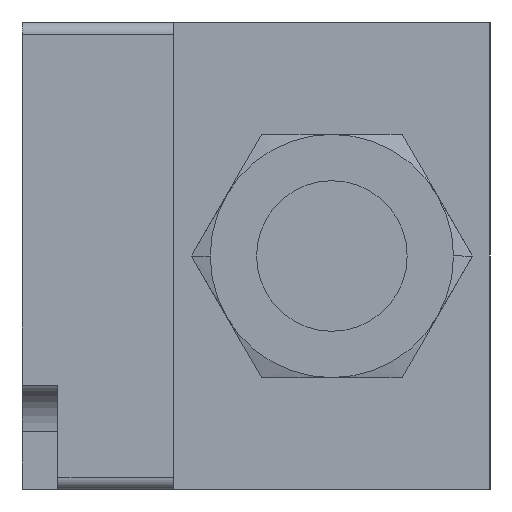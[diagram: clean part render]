
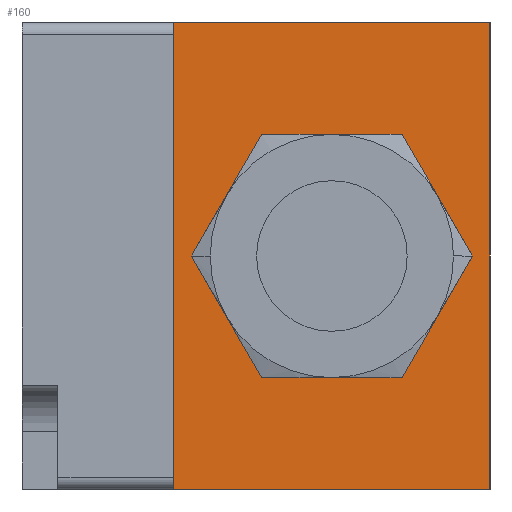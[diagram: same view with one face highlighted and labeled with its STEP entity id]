
A CAD part, left-side view. The second image highlights one B-rep face of the part: STEP entity #160.
In plain terms, the highlighted planar face has unit normal (-1, 0, 0).
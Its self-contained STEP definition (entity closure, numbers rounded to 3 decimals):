
#160 = ADVANCED_FACE( '', ( #345, #346 ), #347, .T. );
#345 = FACE_BOUND( '', #538, .T. );
#346 = FACE_OUTER_BOUND( '', #539, .T. );
#347 = PLANE( '', #540 );
#538 = EDGE_LOOP( '', ( #1230, #1231 ) );
#539 = EDGE_LOOP( '', ( #1232, #1233, #1234, #1235 ) );
#540 = AXIS2_PLACEMENT_3D( '', #1236, #1237, #1238 );
#1230 = ORIENTED_EDGE( '', *, *, #1333, .T. );
#1231 = ORIENTED_EDGE( '', *, *, #1295, .T. );
#1232 = ORIENTED_EDGE( '', *, *, #1487, .T. );
#1233 = ORIENTED_EDGE( '', *, *, #1449, .F. );
#1234 = ORIENTED_EDGE( '', *, *, #1456, .F. );
#1235 = ORIENTED_EDGE( '', *, *, #1446, .T. );
#1236 = CARTESIAN_POINT( '', ( 7., 13.65, -20.15 ) );
#1237 = DIRECTION( '', ( -1., 0., 0. ) );
#1238 = DIRECTION( '', ( 0., 0., -1. ) );
#1295 = EDGE_CURVE( '', #1555, #1552, #1556, .T. );
#1333 = EDGE_CURVE( '', #1552, #1555, #1615, .T. );
#1446 = EDGE_CURVE( '', #1800, #1798, #1801, .T. );
#1449 = EDGE_CURVE( '', #1803, #1805, #1806, .T. );
#1456 = EDGE_CURVE( '', #1800, #1803, #1814, .T. );
#1487 = EDGE_CURVE( '', #1798, #1805, #1861, .T. );
#1552 = VERTEX_POINT( '', #1942 );
#1555 = VERTEX_POINT( '', #1946 );
#1556 = CIRCLE( '', #1947, 10. );
#1615 = CIRCLE( '', #2129, 10. );
#1798 = VERTEX_POINT( '', #2388 );
#1800 = VERTEX_POINT( '', #2391 );
#1801 = LINE( '', #2392, #2393 );
#1803 = VERTEX_POINT( '', #2396 );
#1805 = VERTEX_POINT( '', #2399 );
#1806 = LINE( '', #2400, #2401 );
#1814 = LINE( '', #2412, #2413 );
#1861 = LINE( '', #2477, #2478 );
#1942 = CARTESIAN_POINT( '', ( 7., 10., 0. ) );
#1946 = CARTESIAN_POINT( '', ( 7., -10., 0. ) );
#1947 = AXIS2_PLACEMENT_3D( '', #2544, #2545, #2546 );
#2129 = AXIS2_PLACEMENT_3D( '', #2592, #2593, #2594 );
#2388 = CARTESIAN_POINT( '', ( 7., -13.65, -20.15 ) );
#2391 = CARTESIAN_POINT( '', ( 7., 13.65, -20.15 ) );
#2392 = CARTESIAN_POINT( '', ( 7., 13.65, -20.15 ) );
#2393 = VECTOR( '', #2777, 1. );
#2396 = CARTESIAN_POINT( '', ( 7., 13.65, 20.15 ) );
#2399 = CARTESIAN_POINT( '', ( 7., -13.65, 20.15 ) );
#2400 = CARTESIAN_POINT( '', ( 7., 13.65, 20.15 ) );
#2401 = VECTOR( '', #2780, 1. );
#2412 = CARTESIAN_POINT( '', ( 7., 13.65, -20.15 ) );
#2413 = VECTOR( '', #2793, 1. );
#2477 = CARTESIAN_POINT( '', ( 7., -13.65, -20.15 ) );
#2478 = VECTOR( '', #2850, 1. );
#2544 = CARTESIAN_POINT( '', ( 7., 0., 0. ) );
#2545 = DIRECTION( '', ( 1., 0., 0. ) );
#2546 = DIRECTION( '', ( 0., 1., 0. ) );
#2592 = CARTESIAN_POINT( '', ( 7., 0., 0. ) );
#2593 = DIRECTION( '', ( 1., 0., 0. ) );
#2594 = DIRECTION( '', ( 0., 1., 0. ) );
#2777 = DIRECTION( '', ( 0., -1., 0. ) );
#2780 = DIRECTION( '', ( 0., -1., 0. ) );
#2793 = DIRECTION( '', ( 0., 0., 1. ) );
#2850 = DIRECTION( '', ( 0., 0., 1. ) );
